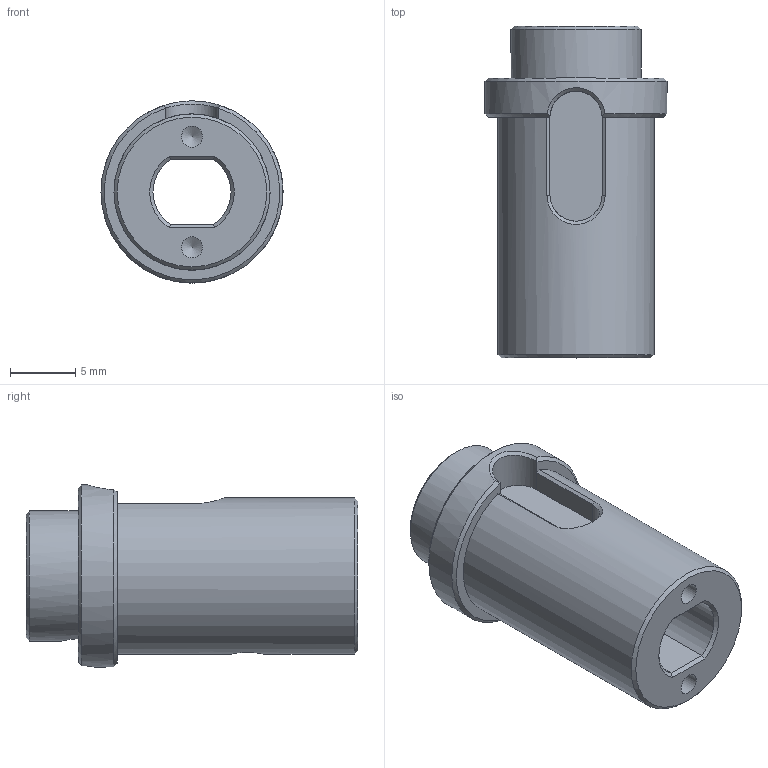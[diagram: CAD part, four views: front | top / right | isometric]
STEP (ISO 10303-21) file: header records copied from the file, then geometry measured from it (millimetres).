
FILE_DESCRIPTION(/* description */ (''),/* implementation_level */ '2;1');
FILE_NAME(/* name */ 'Motor Side Gear Shaft.step',/* time_stamp */ '2026-10-23T15:26:11+05:30',/* author */ (''),/* organization */ (''),/* preprocessor_version */ 'ST-DEVELOPER v20.2',/* originating_system */ 'Autodesk Translation Framework v15.15.0.0',/* authorisation */ '');
FILE_SCHEMA (('AUTOMOTIVE_DESIGN { 1 0 10303 214 3 1 1 }'));
Length unit declared in the file: millimetre
Products named in the file (1): 2026-10-23-15-26-11-432
Bounding box: 14 x 25.5 x 14 mm (x, y, z)
Volume: 2055.5 mm3; surface area: 1780.1 mm2
Topology: 1 solids, 1 shells, 36 faces, 92 edges, 57 vertices
Faces by surface type: plane 15, cylinder 10, cone 9, bspline 2
Full cylindrical faces by diameter (mm): 1.623 x2, 2.529 x2, 6 x1, 10 x1, 12 x1, 14 x1
Entity records: 1450 total; most frequent: CARTESIAN_POINT 558, ORIENTED_EDGE 180, DIRECTION 173, EDGE_CURVE 90, AXIS2_PLACEMENT_3D 66, VERTEX_POINT 57, EDGE_LOOP 43, LINE 41
